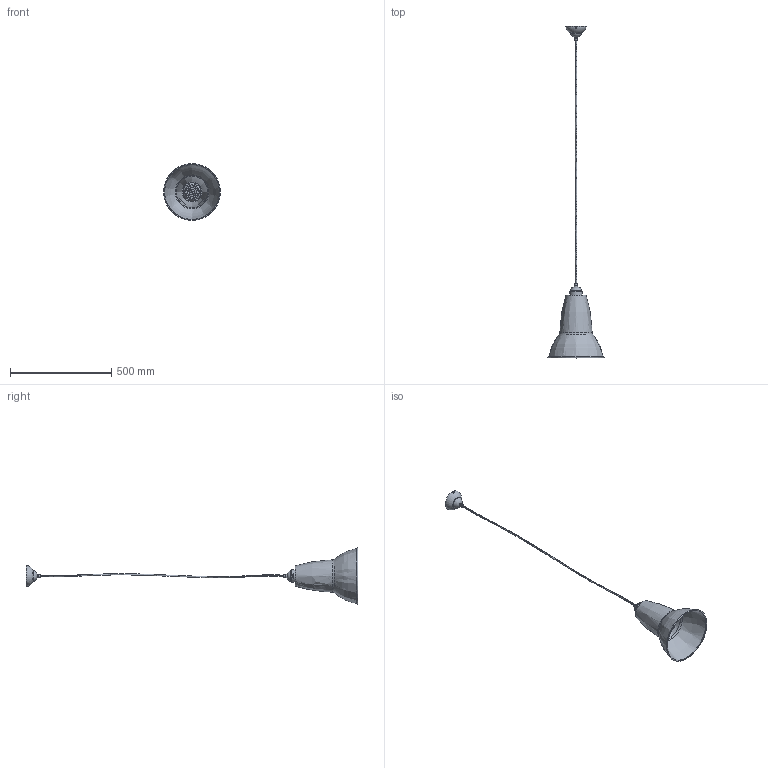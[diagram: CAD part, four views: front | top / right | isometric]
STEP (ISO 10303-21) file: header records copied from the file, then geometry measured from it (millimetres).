
FILE_DESCRIPTION (( 'STEP AP214' ), '1' );
FILE_NAME ('Duo_Maxi_Pendant_Assembly_DF_01.STEP', '2014-10-28T11:30:43', ( '' ), ( '' ), 'SwSTEP 2.0', 'SolidWorks 2014', '' );
FILE_SCHEMA (( 'AUTOMOTIVE_DESIGN' ));
Length unit declared in the file: millimetre
Products named in the file (1): Duo_Maxi_Pendant_Assembly_DF_01
Bounding box: 279.97 x 1637.99 x 279.97 mm (x, y, z)
Volume: 678738.5 mm3; surface area: 461827.5 mm2
Topology: 1 solids, 1 shells, 252 faces, 624 edges, 405 vertices
Faces by surface type: plane 118, bspline 62, cylinder 39, torus 19, cone 12, sphere 2
Full cylindrical faces by diameter (mm): 8 x2, 9.6 x1, 12.8 x1, 13.335 x2, 15 x2, 37.5 x1, 38.1 x1, 39 x1, 54 x1, 60 x1, 272.448 x1
Entity records: 11350 total; most frequent: CARTESIAN_POINT 5781, ORIENTED_EDGE 1118, DIRECTION 895, EDGE_CURVE 559, VERTEX_POINT 386, AXIS2_PLACEMENT_3D 347, EDGE_LOOP 343, FACE_OUTER_BOUND 295
